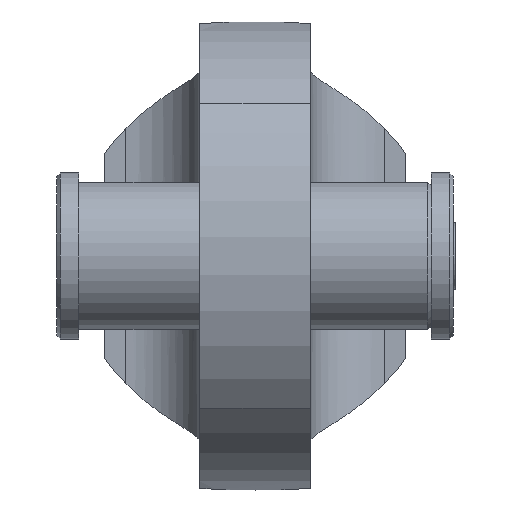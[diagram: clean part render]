
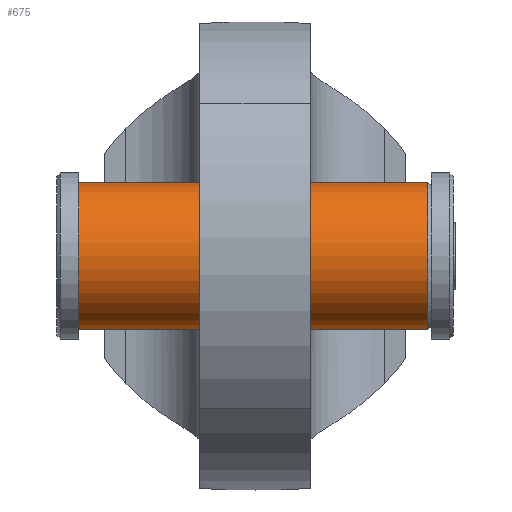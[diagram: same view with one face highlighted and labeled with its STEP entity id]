
A CAD part, left-side view. The second image highlights one B-rep face of the part: STEP entity #675.
In plain terms, the highlighted cylindrical face has radius 40 mm (diameter 80 mm), a full revolution.
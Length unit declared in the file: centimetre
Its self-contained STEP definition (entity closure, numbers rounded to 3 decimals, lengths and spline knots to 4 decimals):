
#90=CYLINDRICAL_SURFACE('',#734,4.);
#106=FACE_BOUND('',#189,.T.);
#136=FACE_OUTER_BOUND('',#188,.T.);
#188=EDGE_LOOP('',(#447));
#189=EDGE_LOOP('',(#448));
#260=CIRCLE('',#728,4.);
#263=CIRCLE('',#735,4.);
#299=VERTEX_POINT('',#1016);
#302=VERTEX_POINT('',#1026);
#362=EDGE_CURVE('',#299,#299,#260,.T.);
#365=EDGE_CURVE('',#302,#302,#263,.T.);
#447=ORIENTED_EDGE('',*,*,#362,.F.);
#448=ORIENTED_EDGE('',*,*,#365,.F.);
#675=ADVANCED_FACE('',(#136,#106),#90,.T.);
#728=AXIS2_PLACEMENT_3D('',#1017,#820,#821);
#734=AXIS2_PLACEMENT_3D('',#1025,#832,#833);
#735=AXIS2_PLACEMENT_3D('',#1027,#834,#835);
#820=DIRECTION('center_axis',(0.,1.,0.));
#821=DIRECTION('ref_axis',(-1.,0.,0.));
#832=DIRECTION('center_axis',(0.,1.,0.));
#833=DIRECTION('ref_axis',(-1.,0.,0.));
#834=DIRECTION('center_axis',(0.,-1.,0.));
#835=DIRECTION('ref_axis',(-1.,0.,0.));
#1016=CARTESIAN_POINT('',(4.,9.55,0.));
#1017=CARTESIAN_POINT('Origin',(0.,9.55,0.));
#1025=CARTESIAN_POINT('Origin',(0.,0.,0.));
#1026=CARTESIAN_POINT('',(4.,-9.35,0.));
#1027=CARTESIAN_POINT('Origin',(0.,-9.35,0.));
